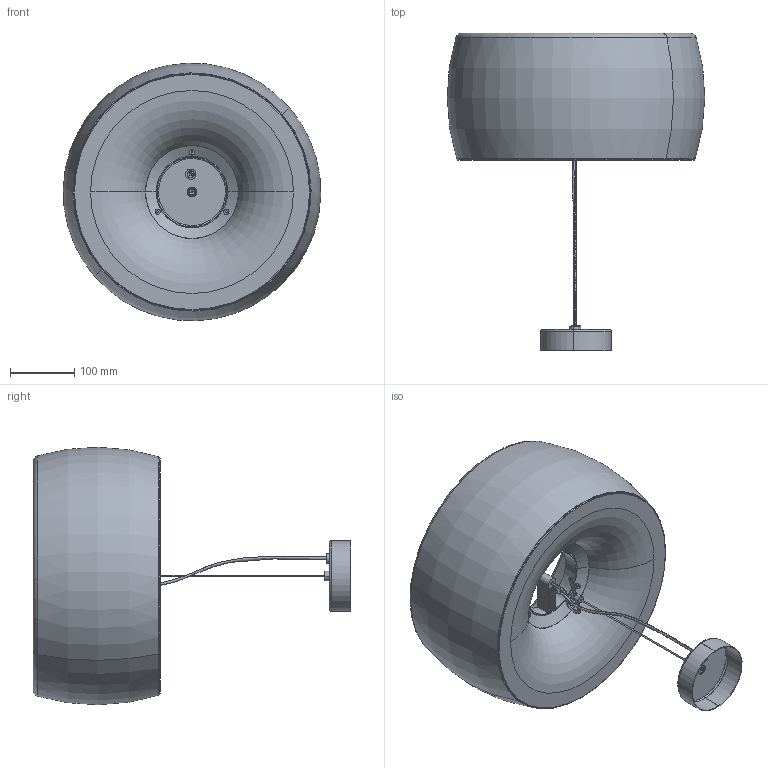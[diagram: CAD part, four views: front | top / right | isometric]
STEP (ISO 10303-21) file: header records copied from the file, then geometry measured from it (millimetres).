
FILE_DESCRIPTION (( 'STEP AP214' ), '1' );
FILE_NAME ('3D_SIRIUS_PENDANT.STEP', '2018-04-11T10:30:52', ( 'Utente' ), ( '' ), 'SwSTEP 2.0', 'SolidWorks 2016', '' );
FILE_SCHEMA (( 'AUTOMOTIVE_DESIGN' ));
Length unit declared in the file: millimetre
Products named in the file (15): 051SIR000200MARTIMMM; 061SIR000100MARTIMMM; 051SIR000100MARTIMMM; 3D_SIRIUS_PENDANT; CAVO_ELETTRICO; CAVO_ACCIAIO; 010SIR001000MARTIMMM; 010LYB000301MARTIMMM; 010LG2000200MARTIMMM; COPRI ROSONE 010LYB000101MARTIMMM; VITE TSEI -PG- UNI5933-M4X10MARTIMMM_Semplice; 010SIR000700MARTIMMM; 010SIR000800MARTIMMM; 010SIR000900MARTIMMM; 052SIR000100MARTIMMM
Assembly tree (19 placements, depth 2):
  3D_SIRIUS_PENDANT
    051SIR000100MARTIMMM
    061SIR000100MARTIMMM
    051SIR000200MARTIMMM
    052SIR000100MARTIMMM
    010SIR000900MARTIMMM
    010SIR000800MARTIMMM
    010SIR000700MARTIMMM
    VITE TSEI -PG- UNI5933-M4X10MARTIMMM_Semplice  x6
    COPRI ROSONE 010LYB000101MARTIMMM
    010LG2000200MARTIMMM
    010LYB000301MARTIMMM
    010SIR001000MARTIMMM
    CAVO_ACCIAIO
    CAVO_ELETTRICO
Bounding box: 399.9 x 492.92 x 399.81 mm (x, y, z)
Volume: 2083228.2 mm3; surface area: 1130077.9 mm2
Topology: 19 solids, 19 shells, 700 faces, 1717 edges, 1079 vertices
Faces by surface type: cylinder 254, plane 217, torus 111, cone 102, bspline 14, sphere 2
Entity records: 22227 total; most frequent: CARTESIAN_POINT 6564, DIRECTION 3201, ORIENTED_EDGE 3034, EDGE_CURVE 1517, AXIS2_PLACEMENT_3D 1336, VERTEX_POINT 959, CIRCLE 723, EDGE_LOOP 678
